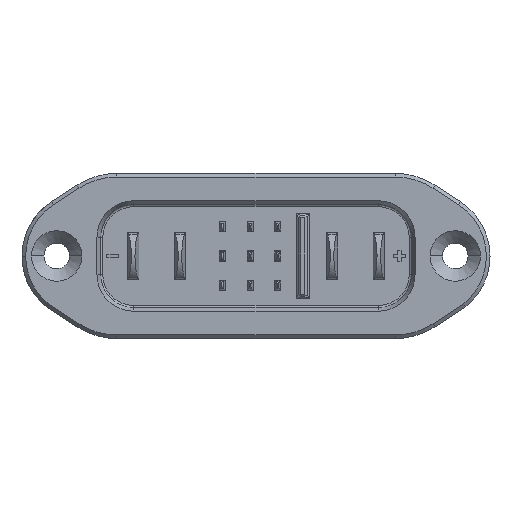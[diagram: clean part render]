
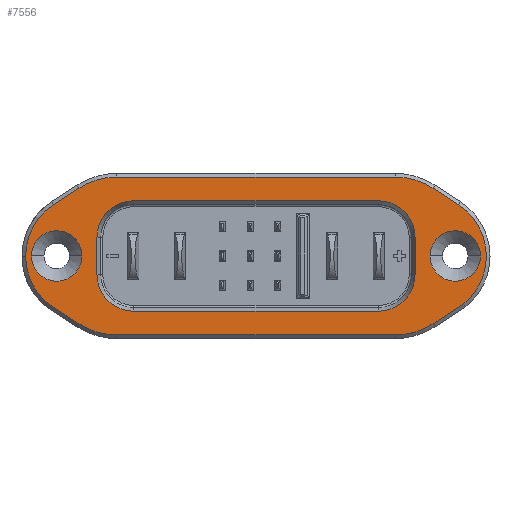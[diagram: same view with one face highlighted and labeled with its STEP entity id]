
A CAD part, top view. The second image highlights one B-rep face of the part: STEP entity #7556.
In plain terms, the highlighted planar face has unit normal (0, 0, 1).
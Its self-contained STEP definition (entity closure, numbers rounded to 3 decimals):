
#1239=DIRECTION('',(-1.,0.,0.));
#1240=VECTOR('',#1239,38.071);
#1241=CARTESIAN_POINT('',(19.836,39.2,10.1));
#1242=LINE('',#1241,#1240);
#1300=DIRECTION('',(0.838,0.545,0.));
#1301=VECTOR('',#1300,5.016);
#1302=CARTESIAN_POINT('',(25.013,40.735,10.1));
#1303=LINE('',#1302,#1301);
#1307=CARTESIAN_POINT('',(19.836,48.7,10.1));
#1308=DIRECTION('',(0.,0.,1.));
#1309=DIRECTION('',(0.,-1.,0.));
#1310=AXIS2_PLACEMENT_3D('',#1307,#1308,#1309);
#1315=CARTESIAN_POINT('',(-18.236,48.7,10.1));
#1316=DIRECTION('',(0.,0.,1.));
#1317=DIRECTION('',(-0.545,-0.838,0.));
#1318=AXIS2_PLACEMENT_3D('',#1315,#1316,#1317);
#1323=DIRECTION('',(0.838,-0.545,0.));
#1324=VECTOR('',#1323,5.016);
#1325=CARTESIAN_POINT('',(-27.619,43.469,10.1));
#1326=LINE('',#1325,#1324);
#1330=CARTESIAN_POINT('',(-22.3,49.97,10.1));
#1331=DIRECTION('',(0.,0.,1.));
#1332=DIRECTION('',(-1.,0.,0.));
#1333=AXIS2_PLACEMENT_3D('',#1330,#1331,#1332);
#1338=CARTESIAN_POINT('',(-22.3,49.97,10.1));
#1339=DIRECTION('',(0.,0.,1.));
#1340=DIRECTION('',(-0.545,0.838,0.));
#1341=AXIS2_PLACEMENT_3D('',#1338,#1339,#1340);
#1346=DIRECTION('',(-0.838,-0.545,0.));
#1347=VECTOR('',#1346,4.133);
#1348=CARTESIAN_POINT('',(-23.413,59.265,10.1));
#1349=LINE('',#1348,#1347);
#1353=CARTESIAN_POINT('',(-18.236,51.3,10.1));
#1354=DIRECTION('',(0.,0.,1.));
#1355=DIRECTION('',(0.,1.,0.));
#1356=AXIS2_PLACEMENT_3D('',#1353,#1354,#1355);
#1361=CARTESIAN_POINT('',(19.836,51.3,10.1));
#1362=DIRECTION('',(0.,0.,1.));
#1363=DIRECTION('',(0.545,0.838,0.));
#1364=AXIS2_PLACEMENT_3D('',#1361,#1362,#1363);
#1369=DIRECTION('',(-0.838,0.545,0.));
#1370=VECTOR('',#1369,4.133);
#1371=CARTESIAN_POINT('',(28.478,57.013,10.1));
#1372=LINE('',#1371,#1370);
#1376=CARTESIAN_POINT('',(23.9,49.97,10.1));
#1377=DIRECTION('',(0.,0.,1.));
#1378=DIRECTION('',(1.,0.,0.));
#1379=AXIS2_PLACEMENT_3D('',#1376,#1377,#1378);
#1384=CARTESIAN_POINT('',(23.9,49.97,10.1));
#1385=DIRECTION('',(0.,0.,1.));
#1386=DIRECTION('',(0.633,-0.774,0.));
#1387=AXIS2_PLACEMENT_3D('',#1384,#1385,#1386);
#1392=CARTESIAN_POINT('',(28.05,50.,10.1));
#1393=DIRECTION('',(0.,0.,-1.));
#1394=DIRECTION('',(1.,0.,0.));
#1395=AXIS2_PLACEMENT_3D('',#1392,#1393,#1394);
#1400=CARTESIAN_POINT('',(28.05,50.,10.1));
#1401=DIRECTION('',(0.,0.,-1.));
#1402=DIRECTION('',(-1.,0.,0.));
#1403=AXIS2_PLACEMENT_3D('',#1400,#1401,#1402);
#1408=CARTESIAN_POINT('',(-26.45,50.,10.1));
#1409=DIRECTION('',(0.,0.,-1.));
#1410=DIRECTION('',(1.,0.,0.));
#1411=AXIS2_PLACEMENT_3D('',#1408,#1409,#1410);
#1416=CARTESIAN_POINT('',(-26.45,50.,10.1));
#1417=DIRECTION('',(0.,0.,-1.));
#1418=DIRECTION('',(-1.,0.,0.));
#1419=AXIS2_PLACEMENT_3D('',#1416,#1417,#1418);
#1424=CARTESIAN_POINT('',(17.55,47.45,10.1));
#1425=DIRECTION('',(0.,0.,-1.));
#1426=DIRECTION('',(1.,0.,0.));
#1427=AXIS2_PLACEMENT_3D('',#1424,#1425,#1426);
#1432=CARTESIAN_POINT('',(17.55,52.55,10.1));
#1433=DIRECTION('',(0.,0.,-1.));
#1434=DIRECTION('',(0.,1.,0.));
#1435=AXIS2_PLACEMENT_3D('',#1432,#1433,#1434);
#1440=CARTESIAN_POINT('',(-15.95,52.55,10.1));
#1441=DIRECTION('',(0.,0.,-1.));
#1442=DIRECTION('',(-1.,0.,0.));
#1443=AXIS2_PLACEMENT_3D('',#1440,#1441,#1442);
#1448=CARTESIAN_POINT('',(-15.95,47.45,10.1));
#1449=DIRECTION('',(0.,0.,-1.));
#1450=DIRECTION('',(0.,-1.,0.));
#1451=AXIS2_PLACEMENT_3D('',#1448,#1449,#1450);
#1514=DIRECTION('',(1.,0.,0.));
#1515=VECTOR('',#1514,38.071);
#1516=CARTESIAN_POINT('',(-18.236,60.8,10.1));
#1517=LINE('',#1516,#1515);
#1645=DIRECTION('',(1.,0.,0.));
#1646=VECTOR('',#1645,33.5);
#1647=CARTESIAN_POINT('',(-15.95,42.45,10.1));
#1648=LINE('',#1647,#1646);
#2167=DIRECTION('',(0.,-1.,0.));
#2168=VECTOR('',#2167,5.1);
#2169=CARTESIAN_POINT('',(-20.95,52.55,10.1));
#2170=LINE('',#2169,#2168);
#2196=DIRECTION('',(-1.,0.,0.));
#2197=VECTOR('',#2196,33.5);
#2198=CARTESIAN_POINT('',(17.55,57.55,10.1));
#2199=LINE('',#2198,#2197);
#2232=DIRECTION('',(0.,1.,0.));
#2233=VECTOR('',#2232,5.1);
#2234=CARTESIAN_POINT('',(22.55,47.45,10.1));
#2235=LINE('',#2234,#2233);
#5582=CARTESIAN_POINT('',(24.6,50.,10.1));
#5583=VERTEX_POINT('',#5582);
#5593=CARTESIAN_POINT('',(-30.7,49.97,10.1));
#5595=VERTEX_POINT('',#5593);
#5618=CARTESIAN_POINT('',(25.013,59.265,10.1));
#5620=VERTEX_POINT('',#5618);
#5626=CARTESIAN_POINT('',(-15.95,42.45,10.1));
#5627=CARTESIAN_POINT('',(-20.95,47.45,10.1));
#5628=VERTEX_POINT('',#5626);
#5629=VERTEX_POINT('',#5627);
#5688=CARTESIAN_POINT('',(-27.619,43.469,10.1));
#5689=VERTEX_POINT('',#5688);
#5690=CARTESIAN_POINT('',(-26.878,57.013,10.1));
#5691=VERTEX_POINT('',#5690);
#5704=CARTESIAN_POINT('',(22.55,47.45,10.1));
#5705=CARTESIAN_POINT('',(22.55,52.55,10.1));
#5706=VERTEX_POINT('',#5704);
#5707=VERTEX_POINT('',#5705);
#5710=CARTESIAN_POINT('',(31.5,50.,10.1));
#5711=VERTEX_POINT('',#5710);
#5736=CARTESIAN_POINT('',(-23.413,40.735,10.1));
#5737=VERTEX_POINT('',#5736);
#5746=CARTESIAN_POINT('',(25.013,40.735,10.1));
#5747=CARTESIAN_POINT('',(29.219,43.469,10.1));
#5748=VERTEX_POINT('',#5746);
#5749=VERTEX_POINT('',#5747);
#5756=CARTESIAN_POINT('',(-20.95,52.55,10.1));
#5757=CARTESIAN_POINT('',(-15.95,57.55,10.1));
#5758=VERTEX_POINT('',#5756);
#5759=VERTEX_POINT('',#5757);
#5776=CARTESIAN_POINT('',(-18.236,39.2,10.1));
#5777=VERTEX_POINT('',#5776);
#5786=CARTESIAN_POINT('',(17.55,57.55,10.1));
#5787=VERTEX_POINT('',#5786);
#5788=CARTESIAN_POINT('',(19.836,39.2,10.1));
#5789=VERTEX_POINT('',#5788);
#5794=CARTESIAN_POINT('',(19.836,60.8,10.1));
#5795=VERTEX_POINT('',#5794);
#5798=CARTESIAN_POINT('',(-29.9,50.,10.1));
#5799=CARTESIAN_POINT('',(-23.,50.,10.1));
#5800=VERTEX_POINT('',#5798);
#5801=VERTEX_POINT('',#5799);
#5802=CARTESIAN_POINT('',(17.55,42.45,10.1));
#5803=VERTEX_POINT('',#5802);
#5806=CARTESIAN_POINT('',(-18.236,60.8,10.1));
#5807=VERTEX_POINT('',#5806);
#5814=CARTESIAN_POINT('',(32.3,49.97,10.1));
#5815=VERTEX_POINT('',#5814);
#5816=CARTESIAN_POINT('',(28.478,57.013,10.1));
#5817=VERTEX_POINT('',#5816);
#5822=CARTESIAN_POINT('',(-23.413,59.265,10.1));
#5823=VERTEX_POINT('',#5822);
#7499=CARTESIAN_POINT('',(17.55,52.55,10.1));
#7500=DIRECTION('',(0.,0.,-1.));
#7501=DIRECTION('',(-1.,0.,0.));
#7502=AXIS2_PLACEMENT_3D('',#7499,#7500,#7501);
#7503=PLANE('',#7502);
#7504=ORIENTED_EDGE('',*,*,#7422,.F.);
#7505=ORIENTED_EDGE('',*,*,#7436,.F.);
#7506=ORIENTED_EDGE('',*,*,#7450,.T.);
#7507=ORIENTED_EDGE('',*,*,#7464,.F.);
#7508=ORIENTED_EDGE('',*,*,#7478,.F.);
#7509=ORIENTED_EDGE('',*,*,#7490,.F.);
#7511=ORIENTED_EDGE('',*,*,#7510,.F.);
#7513=ORIENTED_EDGE('',*,*,#7512,.F.);
#7515=ORIENTED_EDGE('',*,*,#7514,.F.);
#7517=ORIENTED_EDGE('',*,*,#7516,.T.);
#7519=ORIENTED_EDGE('',*,*,#7518,.F.);
#7521=ORIENTED_EDGE('',*,*,#7520,.F.);
#7522=ORIENTED_EDGE('',*,*,#7406,.F.);
#7523=ORIENTED_EDGE('',*,*,#7404,.F.);
#7524=EDGE_LOOP('',(#7504,#7505,#7506,#7507,#7508,#7509,#7511,#7513,#7515,#7517,
#7519,#7521,#7522,#7523));
#7525=FACE_OUTER_BOUND('',#7524,.F.);
#7527=ORIENTED_EDGE('',*,*,#7526,.F.);
#7529=ORIENTED_EDGE('',*,*,#7528,.F.);
#7530=EDGE_LOOP('',(#7527,#7529));
#7531=FACE_BOUND('',#7530,.F.);
#7533=ORIENTED_EDGE('',*,*,#7532,.F.);
#7535=ORIENTED_EDGE('',*,*,#7534,.F.);
#7536=EDGE_LOOP('',(#7533,#7535));
#7537=FACE_BOUND('',#7536,.F.);
#7539=ORIENTED_EDGE('',*,*,#7538,.T.);
#7541=ORIENTED_EDGE('',*,*,#7540,.F.);
#7543=ORIENTED_EDGE('',*,*,#7542,.T.);
#7545=ORIENTED_EDGE('',*,*,#7544,.F.);
#7547=ORIENTED_EDGE('',*,*,#7546,.T.);
#7549=ORIENTED_EDGE('',*,*,#7548,.F.);
#7551=ORIENTED_EDGE('',*,*,#7550,.T.);
#7553=ORIENTED_EDGE('',*,*,#7552,.F.);
#7554=EDGE_LOOP('',(#7539,#7541,#7543,#7545,#7547,#7549,#7551,#7553));
#7555=FACE_BOUND('',#7554,.F.);
#1311=CIRCLE('',#1310,9.5);
#1319=CIRCLE('',#1318,9.5);
#1334=CIRCLE('',#1333,8.4);
#1342=CIRCLE('',#1341,8.4);
#1357=CIRCLE('',#1356,9.5);
#1365=CIRCLE('',#1364,9.5);
#1380=CIRCLE('',#1379,8.4);
#1388=CIRCLE('',#1387,8.4);
#1396=CIRCLE('',#1395,3.45);
#1404=CIRCLE('',#1403,3.45);
#1412=CIRCLE('',#1411,3.45);
#1420=CIRCLE('',#1419,3.45);
#1428=CIRCLE('',#1427,5.);
#1436=CIRCLE('',#1435,5.);
#1444=CIRCLE('',#1443,5.);
#1452=CIRCLE('',#1451,5.);
#7404=EDGE_CURVE('',#5749,#5815,#1388,.T.);
#7406=EDGE_CURVE('',#5815,#5817,#1380,.T.);
#7422=EDGE_CURVE('',#5748,#5749,#1303,.T.);
#7436=EDGE_CURVE('',#5789,#5748,#1311,.T.);
#7450=EDGE_CURVE('',#5789,#5777,#1242,.T.);
#7464=EDGE_CURVE('',#5737,#5777,#1319,.T.);
#7478=EDGE_CURVE('',#5689,#5737,#1326,.T.);
#7490=EDGE_CURVE('',#5595,#5689,#1334,.T.);
#7510=EDGE_CURVE('',#5691,#5595,#1342,.T.);
#7512=EDGE_CURVE('',#5823,#5691,#1349,.T.);
#7514=EDGE_CURVE('',#5807,#5823,#1357,.T.);
#7516=EDGE_CURVE('',#5807,#5795,#1517,.T.);
#7518=EDGE_CURVE('',#5620,#5795,#1365,.T.);
#7520=EDGE_CURVE('',#5817,#5620,#1372,.T.);
#7526=EDGE_CURVE('',#5711,#5583,#1396,.T.);
#7528=EDGE_CURVE('',#5583,#5711,#1404,.T.);
#7532=EDGE_CURVE('',#5801,#5800,#1412,.T.);
#7534=EDGE_CURVE('',#5800,#5801,#1420,.T.);
#7538=EDGE_CURVE('',#5628,#5803,#1648,.T.);
#7540=EDGE_CURVE('',#5706,#5803,#1428,.T.);
#7542=EDGE_CURVE('',#5706,#5707,#2235,.T.);
#7544=EDGE_CURVE('',#5787,#5707,#1436,.T.);
#7546=EDGE_CURVE('',#5787,#5759,#2199,.T.);
#7548=EDGE_CURVE('',#5758,#5759,#1444,.T.);
#7550=EDGE_CURVE('',#5758,#5629,#2170,.T.);
#7552=EDGE_CURVE('',#5628,#5629,#1452,.T.);
#7556=ADVANCED_FACE('',(#7525,#7531,#7537,#7555),#7503,.F.);
